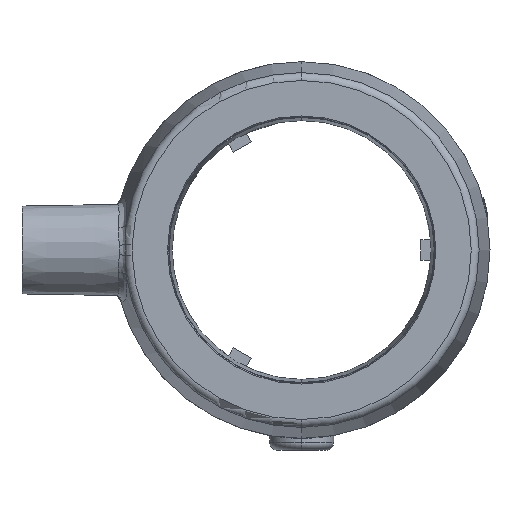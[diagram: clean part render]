
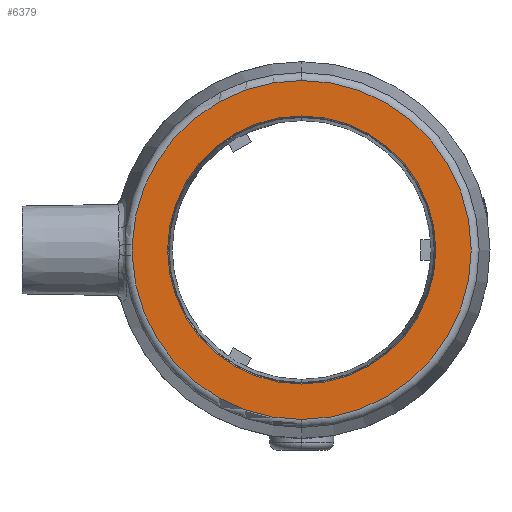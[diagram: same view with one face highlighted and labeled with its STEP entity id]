
A CAD part, left-side view. The second image highlights one B-rep face of the part: STEP entity #6379.
In plain terms, the highlighted planar face has unit normal (-1, 0, 0).
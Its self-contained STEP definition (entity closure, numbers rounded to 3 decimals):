
#999 = CARTESIAN_POINT ( 'NONE',  ( -30., 0., 16.728 ) ) ;
#1406 = CARTESIAN_POINT ( 'NONE',  ( -30., 0., 0. ) ) ;
#1912 = EDGE_CURVE ( 'NONE', #6794, #6685, #16468, .T. ) ;
#2194 = VERTEX_POINT ( 'NONE', #7273 ) ;
#2899 = DIRECTION ( 'NONE',  ( 0., 0., 1. ) ) ;
#3013 = EDGE_CURVE ( 'NONE', #20490, #16335, #19201, .T. ) ;
#3383 = EDGE_CURVE ( 'NONE', #2194, #20490, #7253, .T. ) ;
#3512 = CARTESIAN_POINT ( 'NONE',  ( -30., -16.728, 0. ) ) ;
#3920 = EDGE_CURVE ( 'NONE', #16335, #7854, #14797, .T. ) ;
#4288 = CARTESIAN_POINT ( 'NONE',  ( -30., 0., 0. ) ) ;
#4789 = CARTESIAN_POINT ( 'NONE',  ( -30., 21.143, -0.653 ) ) ;
#4837 = DIRECTION ( 'NONE',  ( 0., 0., 1. ) ) ;
#5425 = DIRECTION ( 'NONE',  ( -1., 0., 0. ) ) ;
#6330 = EDGE_CURVE ( 'NONE', #7854, #2194, #15849, .T. ) ;
#6379 = ADVANCED_FACE ( 'NONE', ( #6717, #13245 ), #19869, .T. ) ;
#6570 = AXIS2_PLACEMENT_3D ( 'NONE', #21155, #14731, #9596 ) ;
#6619 = AXIS2_PLACEMENT_3D ( 'NONE', #20188, #5425, #12048 ) ;
#6685 = VERTEX_POINT ( 'NONE', #999 ) ;
#6717 = FACE_OUTER_BOUND ( 'NONE', #12392, .T. ) ;
#6794 = VERTEX_POINT ( 'NONE', #17796 ) ;
#6969 = ORIENTED_EDGE ( 'NONE', *, *, #7782, .F. ) ;
#7253 = CIRCLE ( 'NONE', #6570, 21.153 ) ;
#7273 = CARTESIAN_POINT ( 'NONE',  ( -30., 0., -21.153 ) ) ;
#7782 = EDGE_CURVE ( 'NONE', #6685, #6794, #11858, .T. ) ;
#7801 = EDGE_LOOP ( 'NONE', ( #6969, #17921 ) ) ;
#7854 = VERTEX_POINT ( 'NONE', #18611 ) ;
#8421 = DIRECTION ( 'NONE',  ( 0., 0., 1. ) ) ;
#9488 = CARTESIAN_POINT ( 'NONE',  ( -30., 21.156, 0.218 ) ) ;
#9538 = DIRECTION ( 'NONE',  ( -1., 0., 0. ) ) ;
#9596 = DIRECTION ( 'NONE',  ( 0., 0., 1. ) ) ;
#10766 = ORIENTED_EDGE ( 'NONE', *, *, #3920, .T. ) ;
#10794 = DIRECTION ( 'NONE',  ( -1., 0., 0. ) ) ;
#11858 = CIRCLE ( 'NONE', #18693, 16.728 ) ;
#12048 = DIRECTION ( 'NONE',  ( 0., 0., 1. ) ) ;
#12392 = EDGE_LOOP ( 'NONE', ( #17152, #19161, #13980, #10766 ) ) ;
#12819 = CARTESIAN_POINT ( 'NONE',  ( -30., 21.143, 0.653 ) ) ;
#13245 = FACE_BOUND ( 'NONE', #7801, .T. ) ;
#13980 = ORIENTED_EDGE ( 'NONE', *, *, #3013, .T. ) ;
#14731 = DIRECTION ( 'NONE',  ( -1., 0., 0. ) ) ;
#14797 = B_SPLINE_CURVE_WITH_KNOTS ( 'NONE', 3,
 ( #12819, #9488, #17942, #4789 ),
 .UNSPECIFIED., .F., .F.,
 ( 4, 4 ),
 ( 0., 0.001 ),
 .UNSPECIFIED. ) ;
#15172 = DIRECTION ( 'NONE',  ( -1., 0., 0. ) ) ;
#15452 = AXIS2_PLACEMENT_3D ( 'NONE', #4288, #10794, #17445 ) ;
#15849 = CIRCLE ( 'NONE', #6619, 21.153 ) ;
#15865 = CARTESIAN_POINT ( 'NONE',  ( -30., 21.143, 0.653 ) ) ;
#16224 = CARTESIAN_POINT ( 'NONE',  ( -30., 0., 21.153 ) ) ;
#16335 = VERTEX_POINT ( 'NONE', #15865 ) ;
#16468 = CIRCLE ( 'NONE', #19186, 16.728 ) ;
#17152 = ORIENTED_EDGE ( 'NONE', *, *, #6330, .T. ) ;
#17445 = DIRECTION ( 'NONE',  ( 0., 0., 1. ) ) ;
#17796 = CARTESIAN_POINT ( 'NONE',  ( -30., 0., -16.728 ) ) ;
#17921 = ORIENTED_EDGE ( 'NONE', *, *, #1912, .F. ) ;
#17942 = CARTESIAN_POINT ( 'NONE',  ( -30., 21.156, -0.218 ) ) ;
#18611 = CARTESIAN_POINT ( 'NONE',  ( -30., 21.143, -0.653 ) ) ;
#18693 = AXIS2_PLACEMENT_3D ( 'NONE', #19583, #20975, #2899 ) ;
#19161 = ORIENTED_EDGE ( 'NONE', *, *, #3383, .T. ) ;
#19186 = AXIS2_PLACEMENT_3D ( 'NONE', #1406, #9538, #4837 ) ;
#19201 = CIRCLE ( 'NONE', #15452, 21.153 ) ;
#19583 = CARTESIAN_POINT ( 'NONE',  ( -30., 0., 0. ) ) ;
#19869 = PLANE ( 'NONE',  #20620 ) ;
#20188 = CARTESIAN_POINT ( 'NONE',  ( -30., 0., 0. ) ) ;
#20490 = VERTEX_POINT ( 'NONE', #16224 ) ;
#20620 = AXIS2_PLACEMENT_3D ( 'NONE', #3512, #15172, #8421 ) ;
#20975 = DIRECTION ( 'NONE',  ( -1., 0., 0. ) ) ;
#21155 = CARTESIAN_POINT ( 'NONE',  ( -30., 0., 0. ) ) ;
